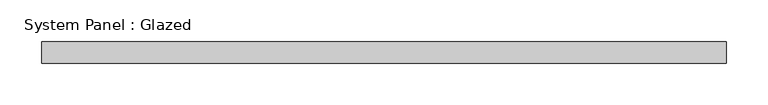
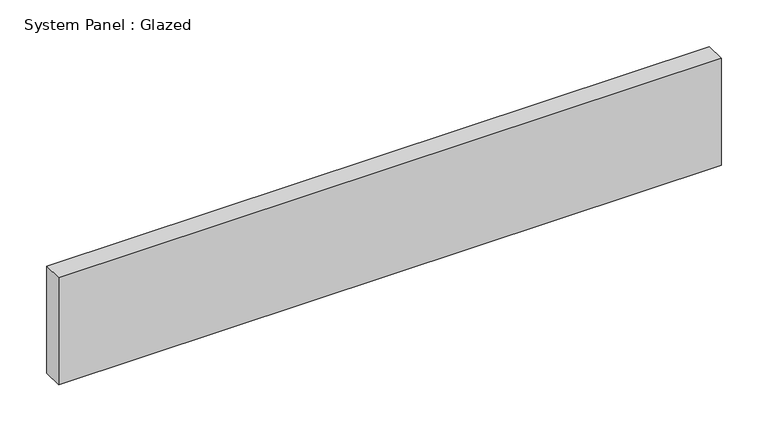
"""IFC4 building model written with IfcOpenShell, lengths in millimetres: plate geometry, System Panel : Glazed."""

from ifc_helpers import new_model, si_unit, origin, origin_with_axes, place, context, project, spatial, polyline, outline, extrude, source, transform, mapped, element, save


def system_panel_glazed_de0f3d3d(model_context):
    return source(origin(), model_context, "Body", "SweptSolid", [
        extrude(outline(polyline([(409.575, -44.45), (-409.575, -44.45), (-409.575, -19.05), (409.575, -19.05), (409.575, -44.45)])), origin_with_axes(), (0.0, 0.0, 1.0), 139.7),
    ])


if __name__ == "__main__":
    model = new_model("IFC4")
    model_context = context("Model", 3, world=origin())
    ifc_project = project(units=[si_unit("LENGTHUNIT", "METRE", prefix="MILLI")], contexts=[model_context])
    site = spatial("IfcSite", under=ifc_project)
    building = spatial("IfcBuilding", under=site)
    placement = place(None, origin())
    system_panel_glazed_shape = system_panel_glazed_de0f3d3d(model_context)
    element("IfcPlate", 1, ObjectType="System Panel : Glazed", at=placement, inside=building, context=model_context, shape_type="MappedRepresentation", body=[
        mapped(system_panel_glazed_shape, transform((0.0, 0.0, 0.0), x_axis=(1.0, 0.0, 0.0), y_axis=(0.0, 1.0, 0.0), z_axis=(0.0, 0.0, 1.0))),
    ])
    save(model, "model.ifc")
